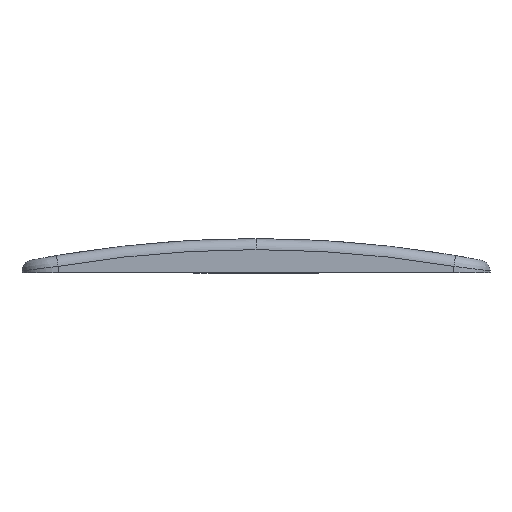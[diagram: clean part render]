
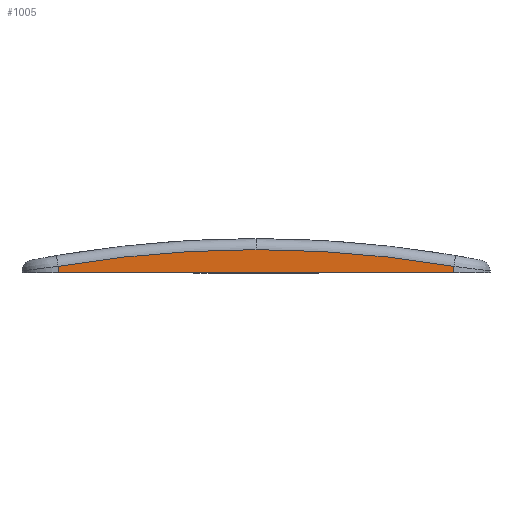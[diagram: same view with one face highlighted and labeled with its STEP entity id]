
A CAD part, front view. The second image highlights one B-rep face of the part: STEP entity #1005.
In plain terms, the highlighted planar face has unit normal (0, -1, 0).
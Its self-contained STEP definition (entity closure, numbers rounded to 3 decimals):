
#87 = DIRECTION ( 'NONE',  ( -1., 0., 0. ) ) ;
#459 = VERTEX_POINT ( 'NONE', #3680 ) ;
#467 = DIRECTION ( 'NONE',  ( 0., 0., 1. ) ) ;
#764 = LINE ( 'NONE', #4506, #5306 ) ;
#924 = CIRCLE ( 'NONE', #6901, 325.22 ) ;
#1005 = ADVANCED_FACE ( 'NONE', ( #1012 ), #2188, .F. ) ;
#1012 = FACE_OUTER_BOUND ( 'NONE', #1597, .T. ) ;
#1075 = CARTESIAN_POINT ( 'NONE',  ( 54.5, -64.5, -318.82 ) ) ;
#1418 = EDGE_CURVE ( 'NONE', #459, #5332, #764, .T. ) ;
#1452 = EDGE_CURVE ( 'NONE', #6577, #2024, #924, .T. ) ;
#1597 = EDGE_LOOP ( 'NONE', ( #6176, #3132, #7069, #5747, #6243 ) ) ;
#1616 = DIRECTION ( 'NONE',  ( 0., 0., -1. ) ) ;
#1665 = CARTESIAN_POINT ( 'NONE',  ( 0., -64.5, -318.82 ) ) ;
#1949 = LINE ( 'NONE', #1075, #2702 ) ;
#2024 = VERTEX_POINT ( 'NONE', #6424 ) ;
#2107 = CARTESIAN_POINT ( 'NONE',  ( 0., -64.5, -318.82 ) ) ;
#2182 = CARTESIAN_POINT ( 'NONE',  ( 54.5, -64.5, 1.801 ) ) ;
#2183 = VECTOR ( 'NONE', #1616, 1000. ) ;
#2188 = PLANE ( 'NONE',  #2268 ) ;
#2268 = AXIS2_PLACEMENT_3D ( 'NONE', #1665, #6011, #3337 ) ;
#2635 = DIRECTION ( 'NONE',  ( 0., 0., 1. ) ) ;
#2702 = VECTOR ( 'NONE', #467, 1000. ) ;
#2758 = DIRECTION ( 'NONE',  ( 0., 0., 1. ) ) ;
#3132 = ORIENTED_EDGE ( 'NONE', *, *, #1452, .T. ) ;
#3337 = DIRECTION ( 'NONE',  ( 0., 0., 1. ) ) ;
#3680 = CARTESIAN_POINT ( 'NONE',  ( 54.5, -64.5, 0. ) ) ;
#3778 = CARTESIAN_POINT ( 'NONE',  ( -54.5, -64.5, 1.801 ) ) ;
#3814 = LINE ( 'NONE', #5423, #2183 ) ;
#4072 = EDGE_CURVE ( 'NONE', #2024, #6204, #6300, .T. ) ;
#4086 = EDGE_CURVE ( 'NONE', #459, #6577, #1949, .T. ) ;
#4410 = DIRECTION ( 'NONE',  ( 0., -1., 0. ) ) ;
#4500 = CARTESIAN_POINT ( 'NONE',  ( -54.5, -64.5, 0. ) ) ;
#4506 = CARTESIAN_POINT ( 'NONE',  ( -64.5, -64.5, 0. ) ) ;
#5306 = VECTOR ( 'NONE', #87, 1000. ) ;
#5332 = VERTEX_POINT ( 'NONE', #4500 ) ;
#5423 = CARTESIAN_POINT ( 'NONE',  ( -54.5, -64.5, -318.82 ) ) ;
#5747 = ORIENTED_EDGE ( 'NONE', *, *, #6980, .T. ) ;
#6011 = DIRECTION ( 'NONE',  ( 0., 1., 0. ) ) ;
#6083 = CARTESIAN_POINT ( 'NONE',  ( 0., -64.5, -318.82 ) ) ;
#6176 = ORIENTED_EDGE ( 'NONE', *, *, #4086, .T. ) ;
#6204 = VERTEX_POINT ( 'NONE', #3778 ) ;
#6243 = ORIENTED_EDGE ( 'NONE', *, *, #1418, .F. ) ;
#6300 = CIRCLE ( 'NONE', #6605, 325.22 ) ;
#6424 = CARTESIAN_POINT ( 'NONE',  ( 0., -64.5, 6.4 ) ) ;
#6577 = VERTEX_POINT ( 'NONE', #2182 ) ;
#6605 = AXIS2_PLACEMENT_3D ( 'NONE', #2107, #7075, #2635 ) ;
#6901 = AXIS2_PLACEMENT_3D ( 'NONE', #6083, #4410, #2758 ) ;
#6980 = EDGE_CURVE ( 'NONE', #6204, #5332, #3814, .T. ) ;
#7069 = ORIENTED_EDGE ( 'NONE', *, *, #4072, .T. ) ;
#7075 = DIRECTION ( 'NONE',  ( 0., -1., 0. ) ) ;
